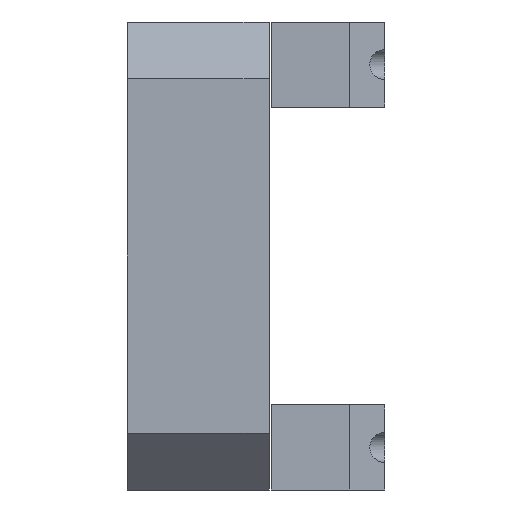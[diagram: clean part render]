
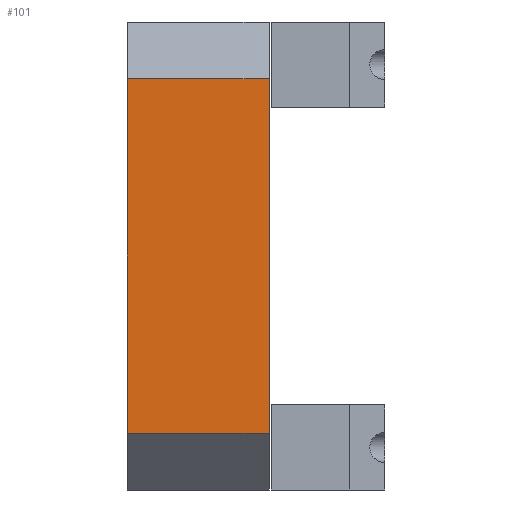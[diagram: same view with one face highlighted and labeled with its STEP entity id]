
A CAD part, left-side view. The second image highlights one B-rep face of the part: STEP entity #101.
In plain terms, the highlighted planar face has unit normal (-1, 0, 0).
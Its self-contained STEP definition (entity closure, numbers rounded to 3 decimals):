
#48 = ORIENTED_EDGE ( 'NONE', *, *, #1419, .F. ) ;
#57 = ORIENTED_EDGE ( 'NONE', *, *, #1627, .T. ) ;
#67 = ORIENTED_EDGE ( 'NONE', *, *, #1630, .T. ) ;
#72 = ORIENTED_EDGE ( 'NONE', *, *, #1629, .F. ) ;
#101 = ADVANCED_FACE ( 'NONE', ( #799 ), #729, .F. ) ;
#321 = CARTESIAN_POINT ( 'NONE',  ( 0., 20., -25. ) ) ;
#329 = CARTESIAN_POINT ( 'NONE',  ( 0., 0., -25. ) ) ;
#356 = CARTESIAN_POINT ( 'NONE',  ( 0., 20., 25. ) ) ;
#378 = CARTESIAN_POINT ( 'NONE',  ( 0., 0., 25. ) ) ;
#402 = AXIS2_PLACEMENT_3D ( 'NONE', #726, #725, #724 ) ;
#550 = LINE ( 'NONE', #2096, #554 ) ;
#554 = VECTOR ( 'NONE', #2089, 1000. ) ;
#724 = DIRECTION ( 'NONE',  ( 0., 0., -1. ) ) ;
#725 = DIRECTION ( 'NONE',  ( 1., 0., 0. ) ) ;
#726 = CARTESIAN_POINT ( 'NONE',  ( 0., 20., -33. ) ) ;
#729 = PLANE ( 'NONE',  #402 ) ;
#799 = FACE_OUTER_BOUND ( 'NONE', #2380, .T. ) ;
#957 = CARTESIAN_POINT ( 'NONE',  ( 0., 0., -33. ) ) ;
#959 = DIRECTION ( 'NONE',  ( 0., 0., 1. ) ) ;
#961 = CARTESIAN_POINT ( 'NONE',  ( 0., 20., 25. ) ) ;
#962 = DIRECTION ( 'NONE',  ( 0., -1., 0. ) ) ;
#963 = CARTESIAN_POINT ( 'NONE',  ( 0., 20., -25. ) ) ;
#964 = DIRECTION ( 'NONE',  ( 0., -1., 0. ) ) ;
#1137 = VECTOR ( 'NONE', #964, 1000. ) ;
#1139 = VECTOR ( 'NONE', #962, 1000. ) ;
#1140 = LINE ( 'NONE', #963, #1137 ) ;
#1143 = LINE ( 'NONE', #961, #1139 ) ;
#1144 = VECTOR ( 'NONE', #959, 1000. ) ;
#1147 = LINE ( 'NONE', #957, #1144 ) ;
#1419 = EDGE_CURVE ( 'NONE', #2140, #2177, #550, .T. ) ;
#1627 = EDGE_CURVE ( 'NONE', #2150, #2199, #1147, .T. ) ;
#1629 = EDGE_CURVE ( 'NONE', #2177, #2199, #1143, .T. ) ;
#1630 = EDGE_CURVE ( 'NONE', #2140, #2150, #1140, .T. ) ;
#2089 = DIRECTION ( 'NONE',  ( 0., 0., 1. ) ) ;
#2096 = CARTESIAN_POINT ( 'NONE',  ( 0., 20., -33. ) ) ;
#2140 = VERTEX_POINT ( 'NONE', #321 ) ;
#2150 = VERTEX_POINT ( 'NONE', #329 ) ;
#2177 = VERTEX_POINT ( 'NONE', #356 ) ;
#2199 = VERTEX_POINT ( 'NONE', #378 ) ;
#2380 = EDGE_LOOP ( 'NONE', ( #48, #67, #57, #72 ) ) ;
